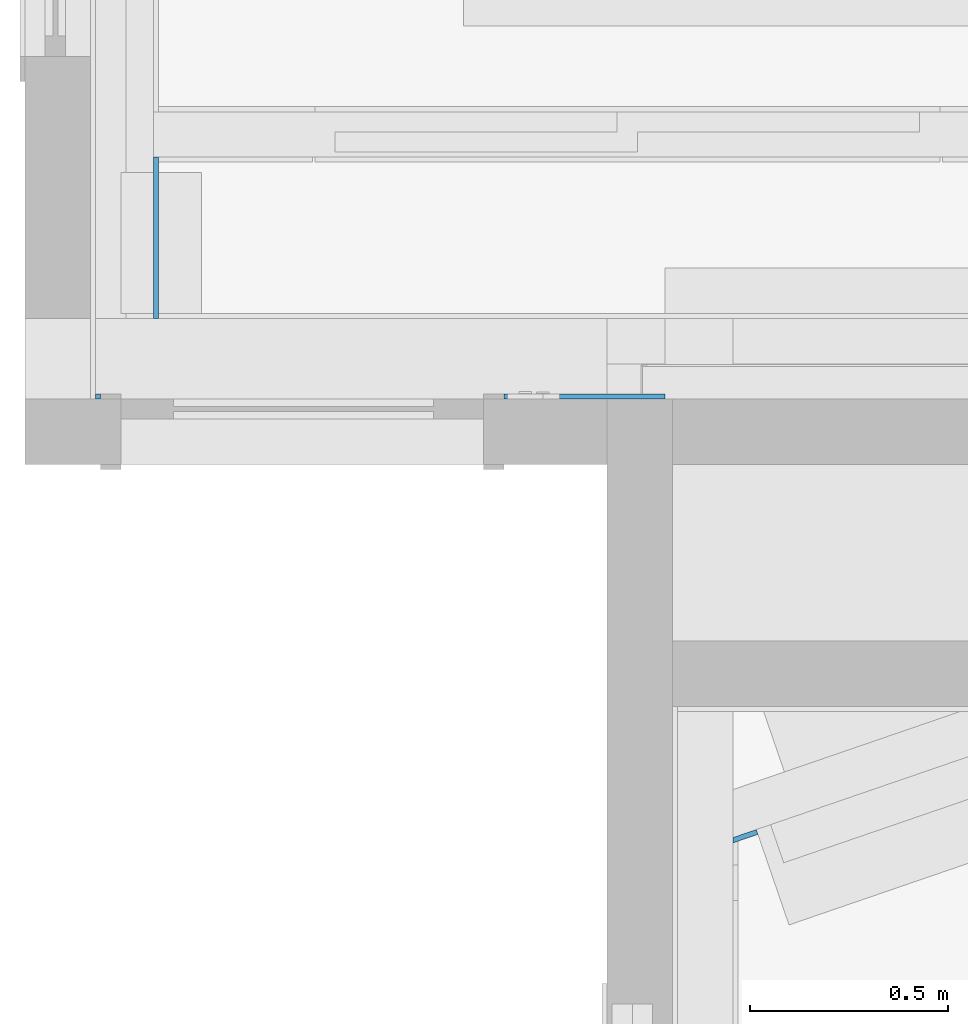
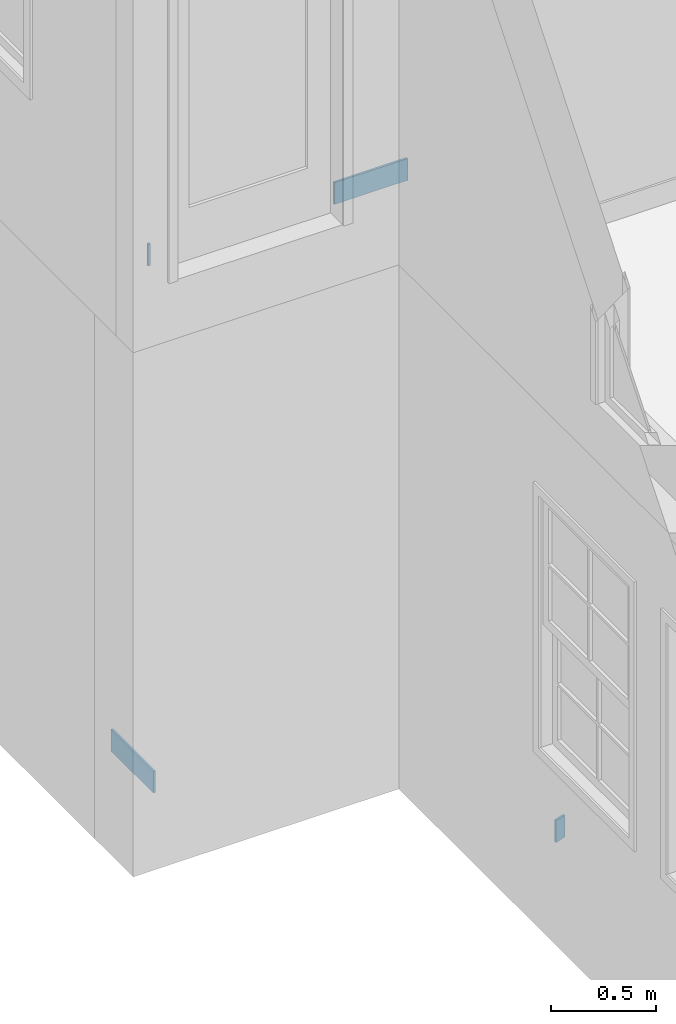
# One storey, part 20 of 81: 4 walls.
"""IFC2X3 building model written with IfcOpenShell, lengths in feet."""

from ifc_helpers import new_model, entity, si_unit, converted_unit, derived_unit, direction, frame, frame_2d, origin, place, context, subcontext, project, spatial, polyline, rectangle, outline, extrude, material, layer, layer_set, layer_usage, type_object, element, save


model = new_model("IFC2X3")

# Units and contexts
model_context = context("Model", 3, precision=0.0001, world=origin(), true_north=direction((6.12303176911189e-17, 1.0)))
body_context = subcontext(model_context, "Body", "Model", "MODEL_VIEW")
ifc_project = project(units=[converted_unit("LENGTHUNIT", "FOOT", entity("IfcRatioMeasure", 0.3048), si_unit("LENGTHUNIT", "METRE"), dimensions=[1, 0, 0, 0, 0, 0, 0]), converted_unit("AREAUNIT", "SQUARE FOOT", entity("IfcRatioMeasure", 0.09290304), si_unit("AREAUNIT", "SQUARE_METRE"), dimensions=[2, 0, 0, 0, 0, 0, 0]), converted_unit("VOLUMEUNIT", "CUBIC FOOT", entity("IfcRatioMeasure", 0.028316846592), si_unit("VOLUMEUNIT", "CUBIC_METRE"), dimensions=[3, 0, 0, 0, 0, 0, 0]), converted_unit("PLANEANGLEUNIT", "DEGREE", entity("IfcRatioMeasure", 0.0174532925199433), si_unit("PLANEANGLEUNIT", "RADIAN"), dimensions=[0, 0, 0, 0, 0, 0, 0]), si_unit("MASSUNIT", "GRAM", prefix="KILO"), derived_unit("MASSDENSITYUNIT", [(si_unit("MASSUNIT", "GRAM", prefix="KILO"), 1), (si_unit("LENGTHUNIT", "METRE"), -3)]), derived_unit("MOMENTOFINERTIAUNIT", [(si_unit("LENGTHUNIT", "METRE"), 4)]), si_unit("TIMEUNIT", "SECOND"), si_unit("FREQUENCYUNIT", "HERTZ"), si_unit("THERMODYNAMICTEMPERATUREUNIT", "DEGREE_CELSIUS"), derived_unit("THERMALTRANSMITTANCEUNIT", [(si_unit("MASSUNIT", "GRAM", prefix="KILO"), 1), (si_unit("THERMODYNAMICTEMPERATUREUNIT", "KELVIN"), -1), (si_unit("TIMEUNIT", "SECOND"), -3)]), derived_unit("VOLUMETRICFLOWRATEUNIT", [(si_unit("LENGTHUNIT", "METRE"), 3), (si_unit("TIMEUNIT", "SECOND"), -1)]), si_unit("ELECTRICCURRENTUNIT", "AMPERE"), si_unit("ELECTRICVOLTAGEUNIT", "VOLT"), si_unit("POWERUNIT", "WATT"), si_unit("FORCEUNIT", "NEWTON"), si_unit("ILLUMINANCEUNIT", "LUX"), si_unit("LUMINOUSFLUXUNIT", "LUMEN"), si_unit("LUMINOUSINTENSITYUNIT", "CANDELA"), derived_unit("USERDEFINED", [(si_unit("MASSUNIT", "GRAM", prefix="KILO"), -1), (si_unit("LENGTHUNIT", "METRE"), -2), (si_unit("TIMEUNIT", "SECOND"), 3), (si_unit("LUMINOUSFLUXUNIT", "LUMEN"), 1)]), derived_unit("LINEARVELOCITYUNIT", [(si_unit("LENGTHUNIT", "METRE"), 1), (si_unit("TIMEUNIT", "SECOND"), -1)]), si_unit("PRESSUREUNIT", "PASCAL"), derived_unit("USERDEFINED", [(si_unit("LENGTHUNIT", "METRE"), -2), (si_unit("MASSUNIT", "GRAM", prefix="KILO"), 1), (si_unit("TIMEUNIT", "SECOND"), -2)]), derived_unit("LINEARFORCEUNIT", [(si_unit("MASSUNIT", "GRAM", prefix="KILO"), 1), (si_unit("LENGTHUNIT", "METRE"), 1), (si_unit("TIMEUNIT", "SECOND"), -2), (si_unit("LENGTHUNIT", "METRE"), -1)]), derived_unit("PLANARFORCEUNIT", [(si_unit("MASSUNIT", "GRAM", prefix="KILO"), 1), (si_unit("LENGTHUNIT", "METRE"), 1), (si_unit("TIMEUNIT", "SECOND"), -2), (si_unit("LENGTHUNIT", "METRE"), -2)])], contexts=[model_context])

# Site, building, storey
site_placement = place(None, origin())
site = spatial("IfcSite", under=ifc_project, at=site_placement, Name="Default", CompositionType="ELEMENT")
building_placement = place(site_placement, origin())
building = spatial("IfcBuilding", under=site, at=building_placement, CompositionType="ELEMENT")
storey_placement = place(building_placement, origin())
storey = spatial("IfcBuildingStorey", under=building, at=storey_placement, Name="First floor", CompositionType="ELEMENT", Elevation=0.0)

# Walls
ifc_material = material(Name="Default New Material")
ifc_layer = layer(ifc_material, 0.0416666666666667)
ifc_layer_set = layer_set([ifc_layer], Name="Basic Wall:Wall Border_T1")
ifc_layer_usage_1 = layer_usage(ifc_layer_set, "AXIS2", "NEGATIVE", 0.0208333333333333)
wall_type = type_object("IfcWallType", Name="Basic Wall:Wall Border_T1", PredefinedType="STANDARD", material=ifc_layer_set)
wall_1_placement = place(storey_placement, frame((-15.8020263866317, 28.0043569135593, 0.0), z_axis=(0.0, 0.0, 1.0), x_axis=(-0.945686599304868, -0.325079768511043, 0.0)))
element("IfcWallStandardCase", 1, at=wall_1_placement, inside=storey, type_object=wall_type, material=ifc_layer_usage_1, Name="Basic Wall:Wall Border_T1", ObjectType="Basic Wall:Wall Border_T1", context=body_context, shape_type="SweptSolid", body=[
    extrude(outline(polyline([(0.202182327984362, -0.0208333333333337), (0.216505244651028, 0.0208333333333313), (0.172445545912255, 0.0208333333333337), (0.0, 0.0208333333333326), (0.0, -0.0208333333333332), (0.202182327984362, -0.0208333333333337)])), origin(), (0.0, 0.0, 1.0), 0.416666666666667),
])
ifc_layer_usage_2 = layer_usage(ifc_layer_set, "AXIS2", "NEGATIVE", 0.0208333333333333)
wall_2_placement = place(storey_placement, frame((-20.7708333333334, 33.5833333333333, 0.0), z_axis=(0.0, 0.0, 1.0), x_axis=(0.0, -1.0, 0.0)))
element("IfcWallStandardCase", 2, at=wall_2_placement, inside=storey, type_object=wall_type, material=ifc_layer_usage_2, Name="Basic Wall:Wall Border_T1", ObjectType="Basic Wall:Wall Border_T1", context=body_context, shape_type="SweptSolid", body=[
    extrude(rectangle(XDim=1.33333333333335, YDim=0.0416666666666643, at=frame_2d((0.666666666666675, 0.0), x_axis=(-1.0, 0.0))), origin(), (0.0, 0.0, 1.0), 0.416666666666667),
])
ifc_layer_usage_3 = layer_usage(ifc_layer_set, "AXIS2", "NEGATIVE", 0.0208333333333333)
wall_3_placement = place(storey_placement, frame((-21.2291666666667, 31.6041666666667, 10.6666666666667), z_axis=(0.0, 0.0, 1.0), x_axis=(-1.0, 0.0, 0.0)))
element("IfcWallStandardCase", 3, at=wall_3_placement, inside=storey, type_object=wall_type, material=ifc_layer_usage_3, Name="Basic Wall:Wall Border_T1", ObjectType="Basic Wall:Wall Border_T1", context=body_context, shape_type="SweptSolid", body=[
    extrude(rectangle(XDim=0.0416666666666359, YDim=0.0416666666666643, at=frame_2d((0.0208333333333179, 0.0), x_axis=(-1.0, 0.0))), origin(), (0.0, 0.0, 1.0), 0.416666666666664),
])
ifc_layer_usage_4 = layer_usage(ifc_layer_set, "AXIS2", "NEGATIVE", 0.0208333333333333)
wall_4_placement = place(storey_placement, frame((-16.5624889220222, 31.6041666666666, 10.6666666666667), z_axis=(0.0, 0.0, 1.0), x_axis=(-1.0, 0.0, 0.0)))
element("IfcWallStandardCase", 4, at=wall_4_placement, inside=storey, type_object=wall_type, material=ifc_layer_usage_4, Name="Basic Wall:Wall Border_T1", ObjectType="Basic Wall:Wall Border_T1", context=body_context, shape_type="SweptSolid", body=[
    extrude(rectangle(XDim=1.33334441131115, YDim=0.0416666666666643, at=frame_2d((0.666672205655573, 0.0), x_axis=(-1.0, 0.0))), origin(), (0.0, 0.0, 1.0), 0.416666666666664),
])

save(model, "model.ifc")
